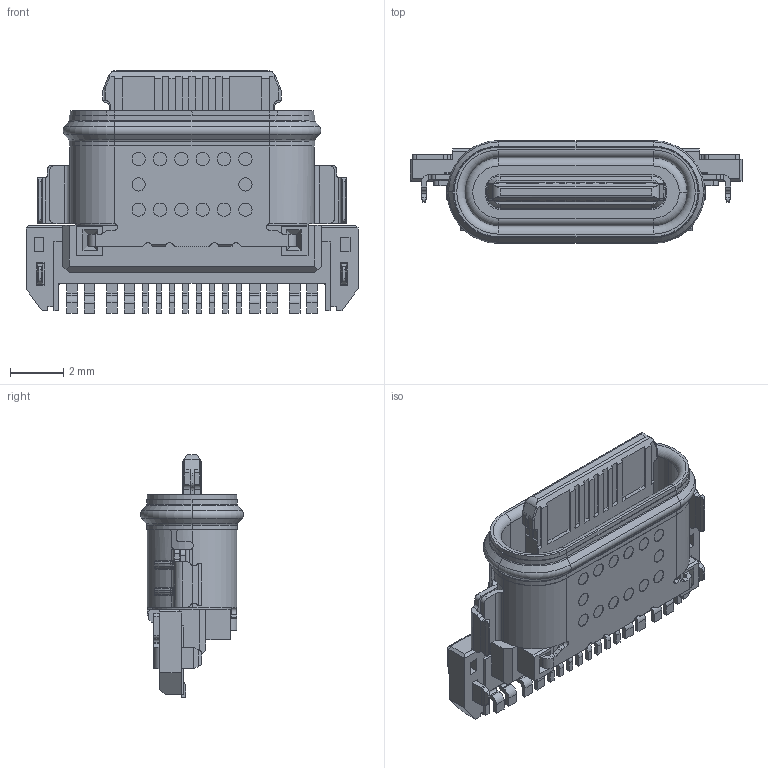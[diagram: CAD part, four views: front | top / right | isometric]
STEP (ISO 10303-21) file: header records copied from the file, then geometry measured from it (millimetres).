
FILE_DESCRIPTION (( 'STEP AP203' ), '1' );
FILE_NAME ('GT-USB-7093B.STEP', '2023-09-25T08:11:00', ( 'Microsoft' ), ( 'Microsoft' ), 'SwSTEP 2.0', 'SolidWorks 2023', '' );
FILE_SCHEMA (( 'CONFIG_CONTROL_DESIGN' ));
Length unit declared in the file: millimetre
Products named in the file (1): GT-USB-7093B
Bounding box: 12.45 x 3.86 x 9.1 mm (x, y, z)
Volume: 126.4 mm3; surface area: 600.9 mm2
Topology: 1 solids, 19 shells, 1827 faces, 4920 edges, 3194 vertices
Faces by surface type: plane 1238, cylinder 474, torus 65, bspline 37, cone 13
Entity records: 59509 total; most frequent: CARTESIAN_POINT 13460, ORIENTED_EDGE 9840, DIRECTION 9139, EDGE_CURVE 4920, LINE 3607, VECTOR 3607, VERTEX_POINT 3194, AXIS2_PLACEMENT_3D 2766
